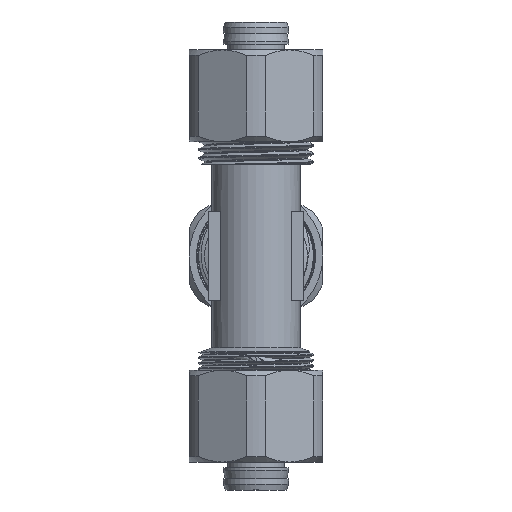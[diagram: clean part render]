
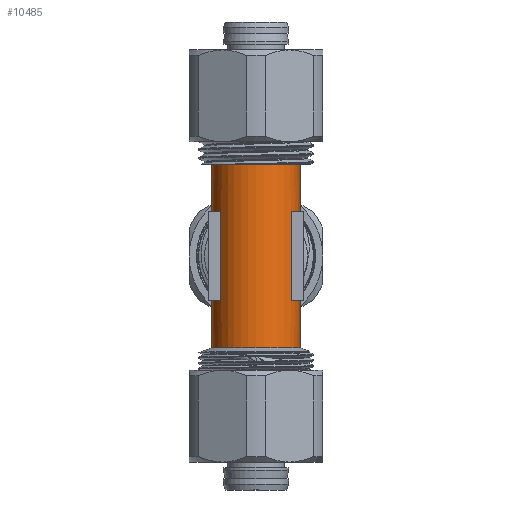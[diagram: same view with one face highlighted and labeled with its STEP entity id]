
A CAD part, front view. The second image highlights one B-rep face of the part: STEP entity #10485.
In plain terms, the highlighted cylindrical face has radius 7.9 mm (diameter 15.8 mm), a full revolution.
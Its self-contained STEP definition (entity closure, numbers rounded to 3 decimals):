
#157=ELLIPSE('',#11205,11.172,7.9);
#158=ELLIPSE('',#11206,11.172,7.9);
#159=ELLIPSE('',#11209,11.172,7.9);
#160=ELLIPSE('',#11210,11.172,7.9);
#1399=FACE_OUTER_BOUND('',#2007,.T.);
#2007=EDGE_LOOP('',(#7334,#7335,#7336,#7337,#7338,#7339,#7340,#7341,#7342,
#7343,#7344,#7345,#7346,#7347,#7348,#7349,#7350,#7351,#7352,#7353,#7354,
#7355,#7356,#7357));
#2712=LINE('',#14178,#3392);
#2715=LINE('',#14184,#3395);
#2720=LINE('',#14196,#3400);
#2731=LINE('',#14220,#3411);
#2735=LINE('',#14232,#3415);
#2740=LINE('',#14244,#3420);
#2743=LINE('',#14268,#3423);
#2744=LINE('',#14273,#3424);
#3392=VECTOR('',#12003,10.);
#3395=VECTOR('',#12008,10.);
#3400=VECTOR('',#12019,10.);
#3411=VECTOR('',#12040,10.);
#3415=VECTOR('',#12054,10.);
#3420=VECTOR('',#12065,10.);
#3423=VECTOR('',#12092,7.9);
#3424=VECTOR('',#12097,7.9);
#3978=CIRCLE('',#11172,7.9);
#3979=CIRCLE('',#11174,7.9);
#3980=CIRCLE('',#11178,7.9);
#3981=CIRCLE('',#11181,7.9);
#3983=CIRCLE('',#11188,7.9);
#3984=CIRCLE('',#11191,7.9);
#3988=CIRCLE('',#11203,7.9);
#3989=CIRCLE('',#11204,7.9);
#3990=CIRCLE('',#11207,7.9);
#3991=CIRCLE('',#11208,7.9);
#4338=VERTEX_POINT('',#14161);
#4339=VERTEX_POINT('',#14162);
#4341=VERTEX_POINT('',#14169);
#4342=VERTEX_POINT('',#14170);
#4344=VERTEX_POINT('',#14177);
#4346=VERTEX_POINT('',#14183);
#4348=VERTEX_POINT('',#14189);
#4350=VERTEX_POINT('',#14195);
#4352=VERTEX_POINT('',#14201);
#4358=VERTEX_POINT('',#14219);
#4359=VERTEX_POINT('',#14225);
#4361=VERTEX_POINT('',#14231);
#4363=VERTEX_POINT('',#14237);
#4365=VERTEX_POINT('',#14243);
#4372=VERTEX_POINT('',#14263);
#4373=VERTEX_POINT('',#14264);
#4374=VERTEX_POINT('',#14267);
#4375=VERTEX_POINT('',#14270);
#4376=VERTEX_POINT('',#14272);
#4377=VERTEX_POINT('',#14274);
#5486=EDGE_CURVE('',#4338,#4339,#3978,.T.);
#5490=EDGE_CURVE('',#4341,#4342,#3979,.T.);
#5494=EDGE_CURVE('',#4344,#4338,#2712,.T.);
#5497=EDGE_CURVE('',#4342,#4346,#2715,.T.);
#5500=EDGE_CURVE('',#4348,#4344,#3980,.T.);
#5503=EDGE_CURVE('',#4350,#4348,#2720,.T.);
#5506=EDGE_CURVE('',#4352,#4350,#3981,.T.);
#5515=EDGE_CURVE('',#4358,#4352,#2731,.T.);
#5518=EDGE_CURVE('',#4346,#4359,#3983,.T.);
#5521=EDGE_CURVE('',#4359,#4361,#2735,.T.);
#5524=EDGE_CURVE('',#4361,#4363,#3984,.T.);
#5527=EDGE_CURVE('',#4363,#4365,#2740,.T.);
#5537=EDGE_CURVE('',#4372,#4373,#3988,.T.);
#5538=EDGE_CURVE('',#4373,#4372,#3989,.T.);
#5539=EDGE_CURVE('',#4373,#4374,#2743,.T.);
#5540=EDGE_CURVE('',#4374,#4358,#157,.T.);
#5541=EDGE_CURVE('',#4339,#4375,#158,.T.);
#5542=EDGE_CURVE('',#4375,#4376,#2744,.T.);
#5543=EDGE_CURVE('',#4376,#4377,#3990,.T.);
#5544=EDGE_CURVE('',#4377,#4376,#3991,.T.);
#5545=EDGE_CURVE('',#4375,#4341,#159,.T.);
#5546=EDGE_CURVE('',#4365,#4374,#160,.T.);
#7334=ORIENTED_EDGE('',*,*,#5537,.F.);
#7335=ORIENTED_EDGE('',*,*,#5538,.F.);
#7336=ORIENTED_EDGE('',*,*,#5539,.T.);
#7337=ORIENTED_EDGE('',*,*,#5540,.T.);
#7338=ORIENTED_EDGE('',*,*,#5515,.T.);
#7339=ORIENTED_EDGE('',*,*,#5506,.T.);
#7340=ORIENTED_EDGE('',*,*,#5503,.T.);
#7341=ORIENTED_EDGE('',*,*,#5500,.T.);
#7342=ORIENTED_EDGE('',*,*,#5494,.T.);
#7343=ORIENTED_EDGE('',*,*,#5486,.T.);
#7344=ORIENTED_EDGE('',*,*,#5541,.T.);
#7345=ORIENTED_EDGE('',*,*,#5542,.T.);
#7346=ORIENTED_EDGE('',*,*,#5543,.T.);
#7347=ORIENTED_EDGE('',*,*,#5544,.T.);
#7348=ORIENTED_EDGE('',*,*,#5542,.F.);
#7349=ORIENTED_EDGE('',*,*,#5545,.T.);
#7350=ORIENTED_EDGE('',*,*,#5490,.T.);
#7351=ORIENTED_EDGE('',*,*,#5497,.T.);
#7352=ORIENTED_EDGE('',*,*,#5518,.T.);
#7353=ORIENTED_EDGE('',*,*,#5521,.T.);
#7354=ORIENTED_EDGE('',*,*,#5524,.T.);
#7355=ORIENTED_EDGE('',*,*,#5527,.T.);
#7356=ORIENTED_EDGE('',*,*,#5546,.T.);
#7357=ORIENTED_EDGE('',*,*,#5539,.F.);
#10319=CYLINDRICAL_SURFACE('',#11202,7.9);
#10485=ADVANCED_FACE('',(#1399),#10319,.T.);
#11172=AXIS2_PLACEMENT_3D('',#14163,#11989,#11990);
#11174=AXIS2_PLACEMENT_3D('',#14171,#11996,#11997);
#11178=AXIS2_PLACEMENT_3D('',#14190,#12013,#12014);
#11181=AXIS2_PLACEMENT_3D('',#14202,#12024,#12025);
#11188=AXIS2_PLACEMENT_3D('',#14226,#12048,#12049);
#11191=AXIS2_PLACEMENT_3D('',#14238,#12059,#12060);
#11202=AXIS2_PLACEMENT_3D('',#14262,#12086,#12087);
#11203=AXIS2_PLACEMENT_3D('',#14265,#12088,#12089);
#11204=AXIS2_PLACEMENT_3D('',#14266,#12090,#12091);
#11205=AXIS2_PLACEMENT_3D('',#14269,#12093,#12094);
#11206=AXIS2_PLACEMENT_3D('',#14271,#12095,#12096);
#11207=AXIS2_PLACEMENT_3D('',#14275,#12098,#12099);
#11208=AXIS2_PLACEMENT_3D('',#14276,#12100,#12101);
#11209=AXIS2_PLACEMENT_3D('',#14277,#12102,#12103);
#11210=AXIS2_PLACEMENT_3D('',#14278,#12104,#12105);
#11989=DIRECTION('center_axis',(0.,0.,-1.));
#11990=DIRECTION('ref_axis',(0.,-1.,0.));
#11996=DIRECTION('center_axis',(0.,0.,-1.));
#11997=DIRECTION('ref_axis',(0.,-1.,0.));
#12003=DIRECTION('',(0.,0.,1.));
#12008=DIRECTION('',(0.,0.,-1.));
#12013=DIRECTION('center_axis',(0.,0.,-1.));
#12014=DIRECTION('ref_axis',(0.,-1.,0.));
#12019=DIRECTION('',(0.,0.,-1.));
#12024=DIRECTION('center_axis',(0.,0.,1.));
#12025=DIRECTION('ref_axis',(0.,-1.,0.));
#12040=DIRECTION('',(0.,0.,1.));
#12048=DIRECTION('center_axis',(0.,0.,-1.));
#12049=DIRECTION('ref_axis',(0.,-1.,0.));
#12054=DIRECTION('',(0.,0.,1.));
#12059=DIRECTION('center_axis',(0.,0.,1.));
#12060=DIRECTION('ref_axis',(0.,-1.,0.));
#12065=DIRECTION('',(0.,0.,-1.));
#12086=DIRECTION('center_axis',(0.,0.,1.));
#12087=DIRECTION('ref_axis',(0.,-1.,0.));
#12088=DIRECTION('center_axis',(0.,0.,1.));
#12089=DIRECTION('ref_axis',(1.,0.,0.));
#12090=DIRECTION('center_axis',(0.,0.,1.));
#12091=DIRECTION('ref_axis',(1.,0.,0.));
#12092=DIRECTION('',(0.,0.,-1.));
#12093=DIRECTION('center_axis',(0.,-0.707,0.707));
#12094=DIRECTION('ref_axis',(0.,0.707,0.707));
#12095=DIRECTION('center_axis',(0.,-0.707,-0.707));
#12096=DIRECTION('ref_axis',(0.,-0.707,0.707));
#12097=DIRECTION('',(0.,0.,-1.));
#12098=DIRECTION('center_axis',(0.,0.,1.));
#12099=DIRECTION('ref_axis',(1.,0.,0.));
#12100=DIRECTION('center_axis',(0.,0.,1.));
#12101=DIRECTION('ref_axis',(1.,0.,0.));
#12102=DIRECTION('center_axis',(0.,-0.707,-0.707));
#12103=DIRECTION('ref_axis',(0.,-0.707,0.707));
#12104=DIRECTION('center_axis',(0.,-0.707,0.707));
#12105=DIRECTION('ref_axis',(0.,0.707,0.707));
#14161=CARTESIAN_POINT('',(-6.323,4.736,-4.772));
#14162=CARTESIAN_POINT('',(-6.296,4.772,-4.772));
#14163=CARTESIAN_POINT('Origin',(0.,0.,-4.772));
#14169=CARTESIAN_POINT('',(6.296,4.772,-4.772));
#14170=CARTESIAN_POINT('',(6.323,4.736,-4.772));
#14171=CARTESIAN_POINT('Origin',(0.,0.,-4.772));
#14177=CARTESIAN_POINT('',(-6.323,4.736,-8.022));
#14178=CARTESIAN_POINT('',(-6.323,4.736,0.));
#14183=CARTESIAN_POINT('',(6.323,4.736,-8.022));
#14184=CARTESIAN_POINT('',(6.323,4.736,0.));
#14189=CARTESIAN_POINT('',(-6.302,-4.764,-8.022));
#14190=CARTESIAN_POINT('Origin',(0.,0.,-8.022));
#14195=CARTESIAN_POINT('',(-6.302,-4.764,7.978));
#14196=CARTESIAN_POINT('',(-6.302,-4.764,0.));
#14201=CARTESIAN_POINT('',(-6.323,4.736,7.978));
#14202=CARTESIAN_POINT('Origin',(0.,0.,7.978));
#14219=CARTESIAN_POINT('',(-6.323,4.736,4.736));
#14220=CARTESIAN_POINT('',(-6.323,4.736,0.));
#14225=CARTESIAN_POINT('',(6.302,-4.764,-8.022));
#14226=CARTESIAN_POINT('Origin',(0.,0.,-8.022));
#14231=CARTESIAN_POINT('',(6.302,-4.764,7.978));
#14232=CARTESIAN_POINT('',(6.302,-4.764,0.));
#14237=CARTESIAN_POINT('',(6.323,4.736,7.978));
#14238=CARTESIAN_POINT('Origin',(0.,0.,7.978));
#14243=CARTESIAN_POINT('',(6.323,4.736,4.736));
#14244=CARTESIAN_POINT('',(6.323,4.736,0.));
#14262=CARTESIAN_POINT('Origin',(0.,0.,0.));
#14263=CARTESIAN_POINT('',(0.,-7.9,16.486));
#14264=CARTESIAN_POINT('',(0.,7.9,16.486));
#14265=CARTESIAN_POINT('Origin',(0.,0.,16.486));
#14266=CARTESIAN_POINT('Origin',(0.,0.,16.486));
#14267=CARTESIAN_POINT('',(0.,7.9,7.9));
#14268=CARTESIAN_POINT('',(0.,7.9,0.));
#14269=CARTESIAN_POINT('Origin',(0.,0.,0.));
#14270=CARTESIAN_POINT('',(0.,7.9,-7.9));
#14271=CARTESIAN_POINT('Origin',(0.,0.,0.));
#14272=CARTESIAN_POINT('',(0.,7.9,-16.486));
#14273=CARTESIAN_POINT('',(0.,7.9,0.));
#14274=CARTESIAN_POINT('',(0.,-7.9,-16.486));
#14275=CARTESIAN_POINT('Origin',(0.,0.,-16.486));
#14276=CARTESIAN_POINT('Origin',(0.,0.,-16.486));
#14277=CARTESIAN_POINT('Origin',(0.,0.,0.));
#14278=CARTESIAN_POINT('Origin',(0.,0.,0.));
